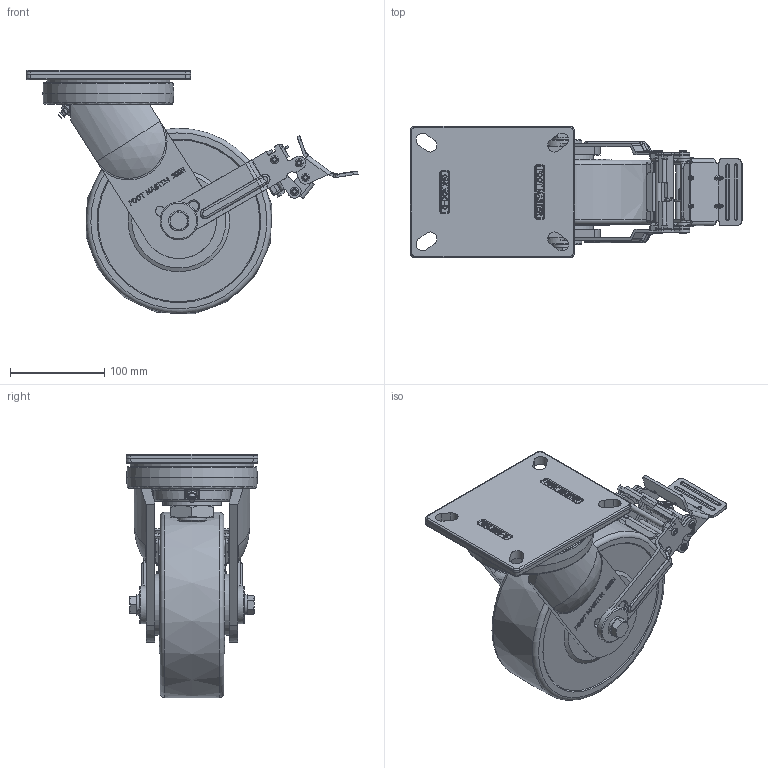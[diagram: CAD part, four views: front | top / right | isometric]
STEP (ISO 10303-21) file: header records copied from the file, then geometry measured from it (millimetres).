
FILE_DESCRIPTION(/* description */ (''),/* implementation_level */ '2;1');
FILE_NAME(/* name */ 'Y:\1.기술연구소\2.연구개발 진행중\133.고하중캐스터 브레이크 타입 변경건_2025.11.03\1.도면\4.홈페이지용 도면\01. 3D\GXT-200 SERIES\GXT-200-STEP\GXT-200N-BSF-MCD-TB.stp',/* time_stamp */ '2026-07-21T19:10:35+09:00',/* author */ ('장용하'),/* organization */ (''),/* preprocessor_version */ 'ST-DEVELOPER v18.1',/* originating_system */ 'Autodesk Inventor 2021',/* authorisation */ '');
FILE_SCHEMA (('CONFIG_CONTROL_DESIGN'));
Products named in the file (1): GXT-200N-BSF-MCD-TB
Bounding box: 352.95 x 140 x 258.56 mm (x, y, z)
Volume: 3233846.5 mm3; surface area: 297586.8 mm2
Topology: 1 solids, 1 shells, 1775 faces, 4753 edges, 3073 vertices
Faces by surface type: plane 725, bspline 500, cylinder 433, torus 70, cone 35, sphere 12
Full cylindrical faces by diameter (mm): 2 x7, 4 x6, 6 x2, 6.2 x14, 6.3 x2, 6.5 x2, 6.8 x4, 8 x6, 8.5 x6, 12 x2, 13 x2, 30 x1, 40 x2, 62.5 x1, 65 x2, 131.086 x1
Entity records: 61338 total; most frequent: CARTESIAN_POINT 19187, ORIENTED_EDGE 9502, DIRECTION 7634, EDGE_CURVE 4751, VERTEX_POINT 3073, AXIS2_PLACEMENT_3D 2589, LINE 2456, VECTOR 2456
